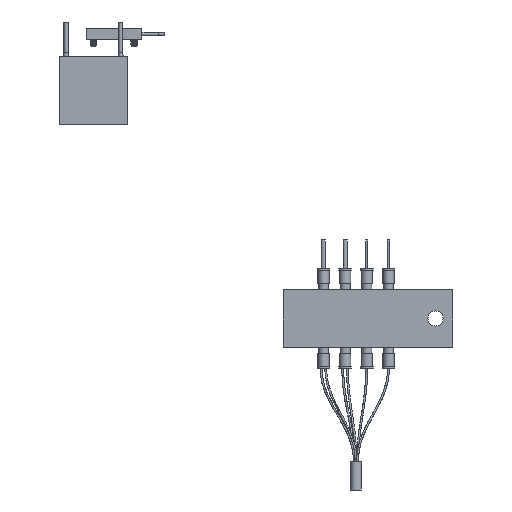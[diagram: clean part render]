
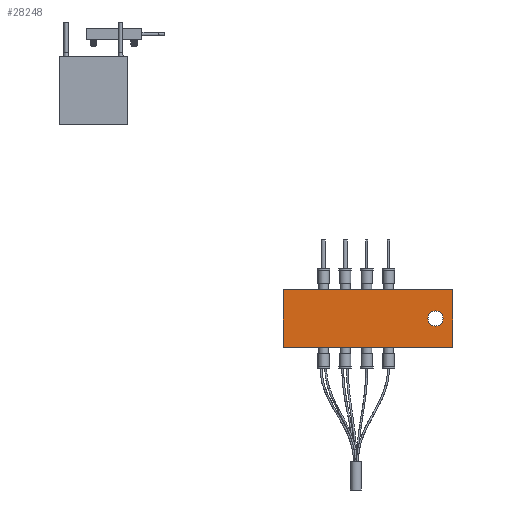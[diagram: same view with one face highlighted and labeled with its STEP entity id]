
A CAD part, front view. The second image highlights one B-rep face of the part: STEP entity #28248.
In plain terms, the highlighted planar face has unit normal (0, -1, 0).
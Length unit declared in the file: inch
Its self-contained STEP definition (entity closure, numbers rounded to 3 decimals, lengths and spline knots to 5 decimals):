
#28109=CARTESIAN_POINT('',(5.77501,-6.871,-3.93701));
#28110=VERTEX_POINT('',#28109);
#28117=CARTESIAN_POINT('',(5.90551,-6.871,-3.93701));
#28118=DIRECTION('',(-0.0,1.0,0.0));
#28119=DIRECTION('',(1.0,0.0,0.0));
#28120=AXIS2_PLACEMENT_3D('',#28117,#28118,#28119);
#28121=CIRCLE('',#28120,0.1305);
#28122=EDGE_CURVE('',#28110,#28110,#28121,.T.);
#28134=CARTESIAN_POINT('',(6.20551,-6.871,-3.43701));
#28135=VERTEX_POINT('',#28134);
#28136=CARTESIAN_POINT('',(6.20551,-6.871,-4.43701));
#28137=VERTEX_POINT('',#28136);
#28138=CARTESIAN_POINT('',(6.20551,-6.871,-3.43701));
#28139=DIRECTION('',(0.0,0.0,-1.0));
#28140=VECTOR('',#28139,1.0);
#28141=LINE('',#28138,#28140);
#28142=EDGE_CURVE('',#28135,#28137,#28141,.T.);
#28166=CARTESIAN_POINT('',(3.28051,-6.871,-4.43701));
#28167=VERTEX_POINT('',#28166);
#28168=CARTESIAN_POINT('',(3.28051,-6.871,-4.43701));
#28169=DIRECTION('',(-1.0,-0.0,0.0));
#28170=VECTOR('',#28169,1.0);
#28171=LINE('',#28168,#28170);
#28172=EDGE_CURVE('',#28137,#28167,#28171,.T.);
#28191=CARTESIAN_POINT('',(3.28051,-6.871,-3.43701));
#28192=VERTEX_POINT('',#28191);
#28193=CARTESIAN_POINT('',(3.28051,-6.871,-3.43701));
#28194=DIRECTION('',(0.0,-0.0,1.0));
#28195=VECTOR('',#28194,1.0);
#28196=LINE('',#28193,#28195);
#28197=EDGE_CURVE('',#28167,#28192,#28196,.T.);
#28216=CARTESIAN_POINT('',(3.28051,-6.871,-3.43701));
#28217=DIRECTION('',(1.0,0.0,0.0));
#28218=VECTOR('',#28217,1.0);
#28219=LINE('',#28216,#28218);
#28220=EDGE_CURVE('',#28192,#28135,#28219,.T.);
#28234=ORIENTED_EDGE('',*,*,#28142,.F.);
#28235=ORIENTED_EDGE('',*,*,#28220,.F.);
#28236=ORIENTED_EDGE('',*,*,#28197,.F.);
#28237=ORIENTED_EDGE('',*,*,#28172,.F.);
#28238=EDGE_LOOP('',(#28234,#28235,#28236,#28237));
#28239=FACE_OUTER_BOUND('',#28238,.T.);
#28240=ORIENTED_EDGE('',*,*,#28122,.T.);
#28241=EDGE_LOOP('',(#28240));
#28242=FACE_BOUND('',#28241,.T.);
#28243=CARTESIAN_POINT('',(4.19406,-6.871,-3.43701));
#28244=DIRECTION('',(0.0,-1.0,0.0));
#28245=DIRECTION('',(1.0,0.0,0.0));
#28246=AXIS2_PLACEMENT_3D('',#28243,#28244,#28245);
#28247=PLANE('',#28246);
#28248=ADVANCED_FACE('',(#28239,#28242),#28247,.T.);
